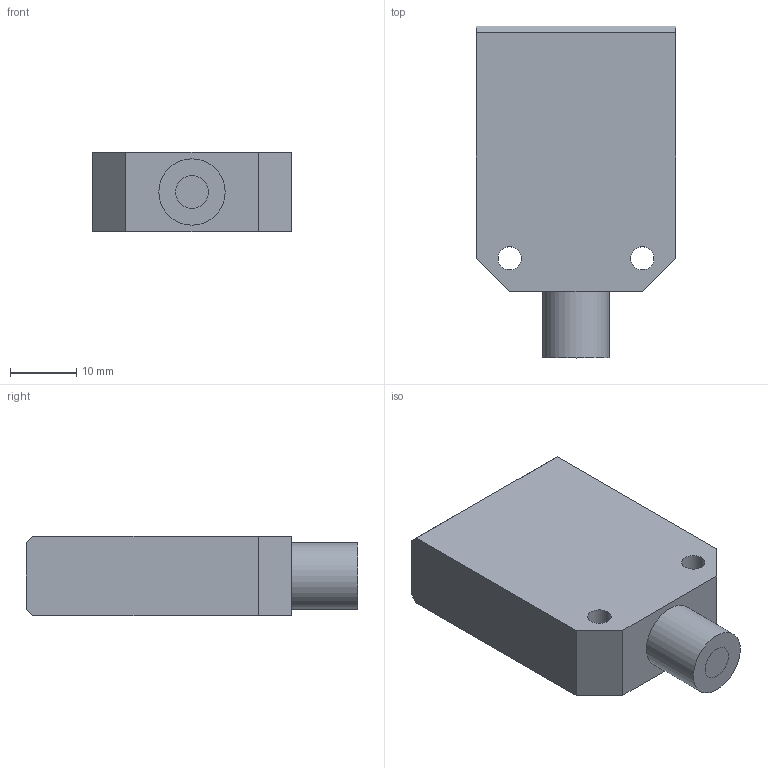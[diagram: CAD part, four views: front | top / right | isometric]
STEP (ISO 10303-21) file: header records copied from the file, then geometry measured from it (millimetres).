
FILE_DESCRIPTION(/* description */ (''),/* implementation_level */ '2;1');
FILE_NAME(/* name */ '',/* time_stamp */ '2023-02-24T17:41:53+09:00',/* author */ (''),/* organization */ (''),/* preprocessor_version */ 'ST-DEVELOPER v19.2',/* originating_system */ 'Autodesk Translation Framework v11.17.0.187',/* authorisation */ '');
FILE_SCHEMA (('AUTOMOTIVE_DESIGN { 1 0 10303 214 3 1 1 }'));
Length unit declared in the file: millimetre
Products named in the file (1): LS20×1.0 共通照射部
Bounding box: 30 x 50 x 12 mm (x, y, z)
Volume: 14624.5 mm3; surface area: 5393.4 mm2
Topology: 4 solids, 4 shells, 30 faces, 63 edges, 42 vertices
Faces by surface type: plane 25, cylinder 5
Full cylindrical faces by diameter (mm): 3.5 x2, 5 x2, 10 x1
Entity records: 839 total; most frequent: CARTESIAN_POINT 136, DIRECTION 135, ORIENTED_EDGE 126, EDGE_CURVE 63, LINE 53, VECTOR 53, VERTEX_POINT 42, AXIS2_PLACEMENT_3D 41
